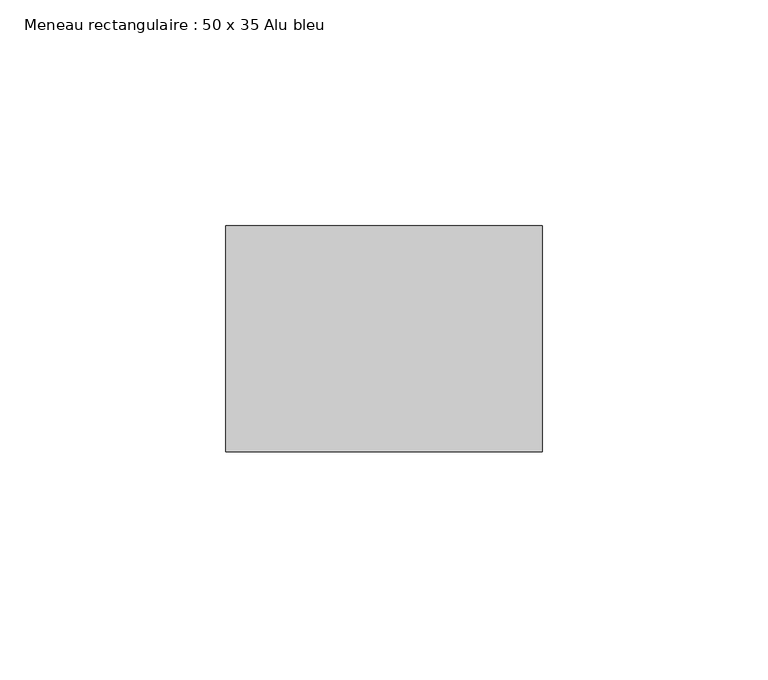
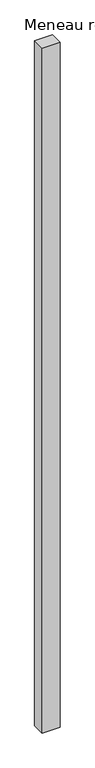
"""IFC4 building model written with IfcOpenShell, lengths in millimetres: member geometry, Meneau rectangulaire : 50 x 35 Alu bleu."""

import ifcopenshell
import ifcopenshell.guid

model = None  # the IFC model being written
_history = None  # IfcOwnerHistory: only IFC2X3 demands one
_inside = {}  # id of a spatial element -> (the spatial element, [elements in it])
_under = {}  # id of a project, library or spatial element -> (it, [spatial elements below it])
_declared = {}  # id of a project -> (the project, [libraries it declares])
_typed = {}  # id of a type object -> (the type object, [elements of that type])
_made_of = {}  # id of a material, layer set ... -> (it, [elements and type objects made of it])


def new_model(schema):
    """Start an empty IFC model of exactly this schema.

    Asked for "IFC4X3", IfcOpenShell would pick the latest addendum, in which some entities
    have other attributes; the version numbers below select the first issue.
    IFC2X3 requires an IfcOwnerHistory on every rooted entity: one is made here for all.
    """
    global model, _history
    if schema == "IFC4X3":
        model = ifcopenshell.file(schema_version=(4, 3, 0, 0))
    else:
        model = ifcopenshell.file(schema=schema)
    _inside.clear()
    _under.clear()
    _declared.clear()
    _typed.clear()
    _made_of.clear()
    _history = None
    if model.schema == "IFC2X3":
        org = make("IfcOrganization", Name="unknown")
        user = make(
            "IfcPersonAndOrganization",
            ThePerson=make("IfcPerson", FamilyName="unknown"),
            TheOrganization=org,
        )
        app = make(
            "IfcApplication",
            ApplicationDeveloper=org,
            Version="unknown",
            ApplicationFullName="unknown",
            ApplicationIdentifier="unknown",
        )
        _history = make(
            "IfcOwnerHistory",
            OwningUser=user,
            OwningApplication=app,
            ChangeAction="ADDED",
            CreationDate=0,
        )
    return model


def make(cls, **values):
    """One entity of the class cls with the attributes given. An attribute that is None is left unset."""
    return model.create_entity(
        cls, **{name: value for name, value in values.items() if value is not None}
    )


def rooted(cls, **values):
    """An entity with a GlobalId (a new one), such as an element, a storey or a relation."""
    return make(cls, GlobalId=ifcopenshell.guid.new(), OwnerHistory=_history, **values)


def si_unit(unit_type, name, prefix=None):
    """IfcSIUnit, for example si_unit("LENGTHUNIT", "METRE", prefix="MILLI")."""
    return make("IfcSIUnit", UnitType=unit_type, Prefix=prefix, Name=name)


def assignment(units):
    """IfcUnitAssignment: the units of a project."""
    return None if units is None else make("IfcUnitAssignment", Units=units)


def point(xyz):
    """IfcCartesianPoint."""
    return None if xyz is None else make("IfcCartesianPoint", Coordinates=xyz)


def direction(xyz):
    """IfcDirection."""
    return None if xyz is None else make("IfcDirection", DirectionRatios=xyz)


def frame(location, z_axis=None, x_axis=None):
    """IfcAxis2Placement3D, a coordinate frame: its origin and axes. An axis left out is left unset."""
    return make(
        "IfcAxis2Placement3D",
        Location=point(location),
        Axis=direction(z_axis),
        RefDirection=direction(x_axis),
    )


def origin():
    """The frame at (0, 0, 0) with its axes left unset."""
    return frame((0.0, 0.0, 0.0))


def place(relative_to, where):
    """IfcLocalPlacement: puts the frame where relative to a parent placement (None: the world)."""
    return make(
        "IfcLocalPlacement", PlacementRelTo=relative_to, RelativePlacement=where
    )


def context(
    kind, dimensions, precision=None, world=None, true_north=None, identifier=None
):
    """IfcGeometricRepresentationContext, for example the 3D "Model" context."""
    return make(
        "IfcGeometricRepresentationContext",
        ContextIdentifier=identifier,
        ContextType=kind,
        CoordinateSpaceDimension=dimensions,
        Precision=precision,
        WorldCoordinateSystem=world,
        TrueNorth=true_north,
    )


def project(units=None, contexts=None):
    """IfcProject with its units and contexts."""
    return rooted(
        "IfcProject",
        Name="project",
        RepresentationContexts=contexts,
        UnitsInContext=assignment(units),
    )


def spatial(cls, under=None, at=None, **own):
    """A site, building, storey or space (cls), placed at a placement, below another one or the project."""
    s = rooted(cls, ObjectPlacement=at, **own)
    if under is not None:
        _under.setdefault(under.id(), (under, []))[1].append(s)
    return s


def polyline(points):
    """IfcPolyline through the points."""
    return make("IfcPolyline", Points=[point(p) for p in points])


def outline(outer, holes=None, kind="AREA"):
    """IfcArbitraryClosedProfileDef: a profile drawn as a closed curve; with holes, ...WithVoids."""
    if holes is None:
        return make("IfcArbitraryClosedProfileDef", ProfileType=kind, OuterCurve=outer)
    return make(
        "IfcArbitraryProfileDefWithVoids",
        ProfileType=kind,
        OuterCurve=outer,
        InnerCurves=holes,
    )


def extrude(swept, where, along, depth):
    """IfcExtrudedAreaSolid: the profile swept, set in the frame where, extruded along a direction by depth."""
    return make(
        "IfcExtrudedAreaSolid",
        SweptArea=swept,
        Position=where,
        ExtrudedDirection=direction(along),
        Depth=depth,
    )


def shape(context_of_items, identifier, shape_type, items):
    """IfcShapeRepresentation: the items that make up one representation, for example the "Body"."""
    return make(
        "IfcShapeRepresentation",
        ContextOfItems=context_of_items,
        RepresentationIdentifier=identifier,
        RepresentationType=shape_type,
        Items=items,
    )


def source(mapping_origin, context_of_items, identifier, shape_type, items):
    """IfcRepresentationMap: a shape defined once, which mapped items show again and again."""
    return make(
        "IfcRepresentationMap",
        MappingOrigin=mapping_origin,
        MappedRepresentation=shape(context_of_items, identifier, shape_type, items),
    )


def transform(
    local_origin,
    x_axis=None,
    y_axis=None,
    z_axis=None,
    scale=None,
    scale2=None,
    scale3=None,
    uniform=True,
):
    """IfcCartesianTransformationOperator3D, or its non-uniform kind. x_axis, y_axis, z_axis: its Axis1, 2, 3."""
    if uniform:
        return make(
            "IfcCartesianTransformationOperator3D",
            Axis1=direction(x_axis),
            Axis2=direction(y_axis),
            LocalOrigin=point(local_origin),
            Scale=scale,
            Axis3=direction(z_axis),
        )
    return make(
        "IfcCartesianTransformationOperator3DnonUniform",
        Axis1=direction(x_axis),
        Axis2=direction(y_axis),
        LocalOrigin=point(local_origin),
        Scale=scale,
        Axis3=direction(z_axis),
        Scale2=scale2,
        Scale3=scale3,
    )


def mapped(mapping_source, mapping_target):
    """IfcMappedItem: shows the shape of a source again, moved by a transform."""
    return make(
        "IfcMappedItem", MappingSource=mapping_source, MappingTarget=mapping_target
    )


def made_of(thing, what):
    """Note that an element or type object is made of a material, layer set ...; save() writes the relation."""
    if what is not None:
        _made_of.setdefault(what.id(), (what, []))[1].append(thing)
    return thing


def element(
    cls,
    number,
    at=None,
    inside=None,
    cuts=None,
    type_object=None,
    material=None,
    context=None,
    identifier="Body",
    shape_type=None,
    held_by="IfcProductDefinitionShape",
    body=None,
    shapes=None,
    **own,
):
    """One element of the class cls, such as IfcWall. Its Tag is "e" and its number.

    at: its placement. inside: the storey or other place that contains it. cuts: it is an
    opening in that element (IfcRelVoidsElement). A single representation is given by context,
    identifier, shape_type and body (its items); several are given by shapes. held_by: the class
    of the entity that holds the representations. save() writes the other relations.
    """
    e = rooted(cls, Tag="e%d" % number, ObjectPlacement=at, **own)
    if body is not None:
        shapes = [shape(context, identifier, shape_type, body)]
    if shapes is not None:
        e.Representation = make(held_by, Representations=shapes)
    if inside is not None:
        _inside.setdefault(inside.id(), (inside, []))[1].append(e)
    if cuts is not None:
        rooted(
            "IfcRelVoidsElement", RelatingBuildingElement=cuts, RelatedOpeningElement=e
        )
    if type_object is not None:
        _typed.setdefault(type_object.id(), (type_object, []))[1].append(e)
    return made_of(e, material)


def aggregate(whole, parts):
    """IfcRelAggregates: a whole, such as a stair, and the parts it consists of."""
    return rooted("IfcRelAggregates", RelatingObject=whole, RelatedObjects=parts)


def save(model, path):
    """Write the relations noted so far, then the file.

    IfcRelAggregates (storeys below a building ...), IfcRelContainedInSpatialStructure (elements
    in a storey), IfcRelDefinesByType, IfcRelAssociatesMaterial and IfcRelDeclares: one each for
    every whole, place, type object, material and project.
    """
    for whole, parts in _under.values():
        aggregate(whole, parts)
    for where, things in _inside.values():
        rooted(
            "IfcRelContainedInSpatialStructure",
            RelatedElements=things,
            RelatingStructure=where,
        )
    for kind, things in _typed.values():
        rooted("IfcRelDefinesByType", RelatedObjects=things, RelatingType=kind)
    for what, things in _made_of.values():
        rooted("IfcRelAssociatesMaterial", RelatedObjects=things, RelatingMaterial=what)
    for by, libraries in _declared.values():
        rooted("IfcRelDeclares", RelatingContext=by, RelatedDefinitions=libraries)
    model.write(path)


def meneau_rectangulaire_50_x_35_alu_bleu_75f37f32(model_context):
    return source(origin(), model_context, "Body", "SweptSolid", [
        extrude(outline(polyline([(0.0, 0.0), (0.0, -50.0), (-70.0, -50.0), (-70.0, 0.0), (0.0, 0.0)])), frame((0.0, 0.0, -2815.0355263), z_axis=(0.0, 0.0, 1.0), x_axis=(1.0, 0.0, 0.0)), (0.0, 0.0, 1.0), 2815.0355263),
    ])


if __name__ == "__main__":
    model = new_model("IFC4")
    model_context = context("Model", 3, world=origin())
    ifc_project = project(units=[si_unit("LENGTHUNIT", "METRE", prefix="MILLI")], contexts=[model_context])
    site = spatial("IfcSite", under=ifc_project)
    building = spatial("IfcBuilding", under=site)
    placement = place(None, origin())
    meneau_rectangulaire_50_x_35_alu_bleu_shape = meneau_rectangulaire_50_x_35_alu_bleu_75f37f32(model_context)
    element("IfcMember", 1, ObjectType="Meneau rectangulaire : 50 x 35 Alu bleu", at=placement, inside=building, context=model_context, shape_type="MappedRepresentation", body=[
        mapped(meneau_rectangulaire_50_x_35_alu_bleu_shape, transform((0.0, 0.0, 0.0), x_axis=(1.0, 0.0, 0.0), y_axis=(0.0, 1.0, 0.0), z_axis=(0.0, 0.0, 1.0))),
    ])
    save(model, "model.ifc")
